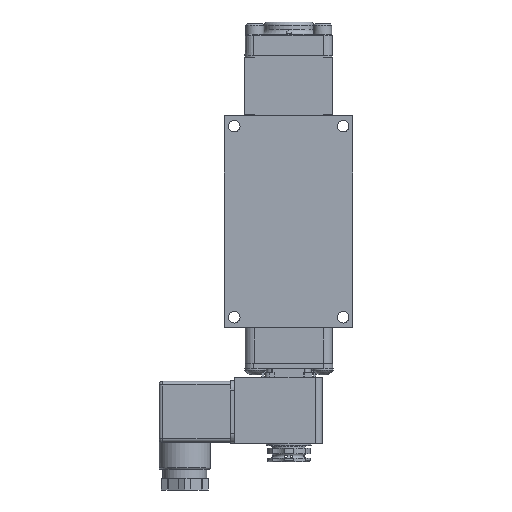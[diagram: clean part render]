
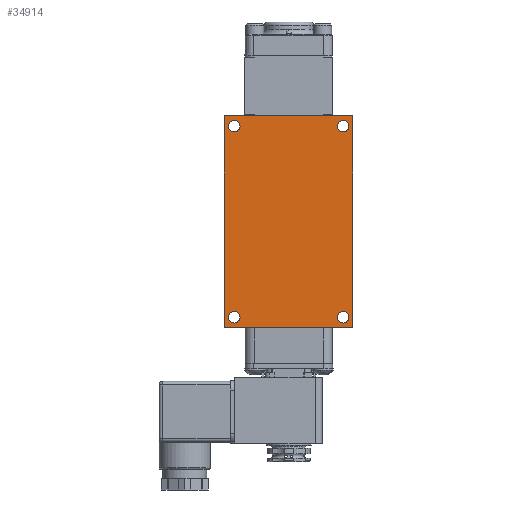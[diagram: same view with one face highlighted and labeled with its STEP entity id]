
A CAD part, front view. The second image highlights one B-rep face of the part: STEP entity #34914.
In plain terms, the highlighted planar face has unit normal (0, -1, 0).
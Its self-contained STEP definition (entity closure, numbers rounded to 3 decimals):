
#1404=FACE_BOUND('',#5485,.T.);
#1405=FACE_BOUND('',#5486,.T.);
#1406=FACE_BOUND('',#5487,.T.);
#1407=FACE_BOUND('',#5488,.T.);
#1951=PLANE('',#37632);
#3374=FACE_OUTER_BOUND('',#5484,.T.);
#5484=EDGE_LOOP('',(#26323,#26324,#26325,#26326));
#5485=EDGE_LOOP('',(#26327));
#5486=EDGE_LOOP('',(#26328));
#5487=EDGE_LOOP('',(#26329));
#5488=EDGE_LOOP('',(#26330));
#7455=CIRCLE('',#37603,0.258);
#7456=CIRCLE('',#37605,0.258);
#7457=CIRCLE('',#37607,0.258);
#7458=CIRCLE('',#37609,0.258);
#9047=LINE('',#53732,#11648);
#9395=LINE('',#55435,#11996);
#9637=LINE('',#56856,#12238);
#9641=LINE('',#56875,#12242);
#11648=VECTOR('',#42258,1.);
#11996=VECTOR('',#43212,1.);
#12238=VECTOR('',#43604,1.);
#12242=VECTOR('',#43626,1.);
#14482=VERTEX_POINT('',#53729);
#14483=VERTEX_POINT('',#53731);
#14839=VERTEX_POINT('',#55433);
#15064=VERTEX_POINT('',#56855);
#15183=VERTEX_POINT('',#57716);
#15184=VERTEX_POINT('',#57720);
#15185=VERTEX_POINT('',#57724);
#15186=VERTEX_POINT('',#57728);
#18085=EDGE_CURVE('',#14482,#14483,#9047,.T.);
#18634=EDGE_CURVE('',#14839,#14482,#9395,.T.);
#18970=EDGE_CURVE('',#14483,#15064,#9637,.T.);
#18980=EDGE_CURVE('',#15064,#14839,#9641,.T.);
#19157=EDGE_CURVE('',#15183,#15183,#7455,.T.);
#19159=EDGE_CURVE('',#15184,#15184,#7456,.T.);
#19161=EDGE_CURVE('',#15185,#15185,#7457,.T.);
#19163=EDGE_CURVE('',#15186,#15186,#7458,.T.);
#26323=ORIENTED_EDGE('',*,*,#18634,.F.);
#26324=ORIENTED_EDGE('',*,*,#18980,.F.);
#26325=ORIENTED_EDGE('',*,*,#18970,.F.);
#26326=ORIENTED_EDGE('',*,*,#18085,.F.);
#26327=ORIENTED_EDGE('',*,*,#19157,.T.);
#26328=ORIENTED_EDGE('',*,*,#19159,.T.);
#26329=ORIENTED_EDGE('',*,*,#19161,.T.);
#26330=ORIENTED_EDGE('',*,*,#19163,.T.);
#34914=ADVANCED_FACE('',(#3374,#1404,#1405,#1406,#1407),#1951,.F.);
#37603=AXIS2_PLACEMENT_3D('',#57718,#43990,#43991);
#37605=AXIS2_PLACEMENT_3D('',#57722,#43995,#43996);
#37607=AXIS2_PLACEMENT_3D('',#57726,#44000,#44001);
#37609=AXIS2_PLACEMENT_3D('',#57730,#44005,#44006);
#37632=AXIS2_PLACEMENT_3D('',#57774,#44064,#44065);
#42258=DIRECTION('',(1.,0.,0.));
#43212=DIRECTION('',(0.,0.,1.));
#43604=DIRECTION('',(0.,0.,-1.));
#43626=DIRECTION('',(-1.,0.,0.));
#43990=DIRECTION('center_axis',(0.,1.,0.));
#43991=DIRECTION('ref_axis',(-1.,0.,0.));
#43995=DIRECTION('center_axis',(0.,1.,0.));
#43996=DIRECTION('ref_axis',(-1.,0.,0.));
#44000=DIRECTION('center_axis',(0.,1.,0.));
#44001=DIRECTION('ref_axis',(-1.,0.,0.));
#44005=DIRECTION('center_axis',(0.,1.,0.));
#44006=DIRECTION('ref_axis',(-1.,0.,0.));
#44064=DIRECTION('center_axis',(0.,1.,0.));
#44065=DIRECTION('ref_axis',(0.,0.,1.));
#53729=CARTESIAN_POINT('',(-2.858,-1.636,4.71));
#53731=CARTESIAN_POINT('',(2.858,-1.636,4.71));
#53732=CARTESIAN_POINT('',(-2.858,-1.636,4.71));
#55433=CARTESIAN_POINT('',(-2.858,-1.636,-4.71));
#55435=CARTESIAN_POINT('',(-2.858,-1.636,-4.71));
#56855=CARTESIAN_POINT('',(2.858,-1.636,-4.71));
#56856=CARTESIAN_POINT('',(2.858,-1.636,4.71));
#56875=CARTESIAN_POINT('',(2.858,-1.636,-4.71));
#57716=CARTESIAN_POINT('',(-2.163,-1.636,-4.247));
#57718=CARTESIAN_POINT('Origin',(-2.421,-1.636,-4.247));
#57720=CARTESIAN_POINT('',(-2.163,-1.636,4.247));
#57722=CARTESIAN_POINT('Origin',(-2.421,-1.636,4.247));
#57724=CARTESIAN_POINT('',(2.678,-1.636,-4.247));
#57726=CARTESIAN_POINT('Origin',(2.421,-1.636,-4.247));
#57728=CARTESIAN_POINT('',(2.678,-1.636,4.247));
#57730=CARTESIAN_POINT('Origin',(2.421,-1.636,4.247));
#57774=CARTESIAN_POINT('Origin',(0.,-1.636,0.));
